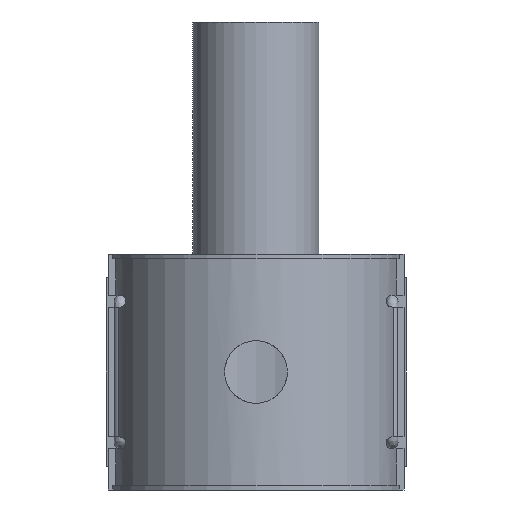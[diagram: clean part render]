
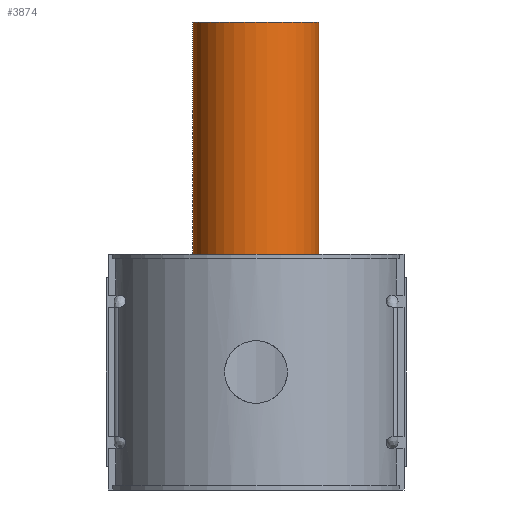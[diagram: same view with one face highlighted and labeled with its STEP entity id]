
A CAD part, front view. The second image highlights one B-rep face of the part: STEP entity #3874.
In plain terms, the highlighted cylindrical face has radius 31.5 mm (diameter 63 mm), a full revolution.
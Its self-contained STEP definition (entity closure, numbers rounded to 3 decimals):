
#336=CIRCLE('',#4235,31.5);
#337=CIRCLE('',#4236,31.5);
#338=CIRCLE('',#4237,31.5);
#339=CIRCLE('',#4238,31.5);
#579=FACE_OUTER_BOUND('',#822,.T.);
#822=EDGE_LOOP('',(#3588,#3589,#3590,#3591,#3592,#3593));
#1143=LINE('',#8208,#1460);
#1460=VECTOR('',#5237,31.5);
#1911=VERTEX_POINT('',#8203);
#1912=VERTEX_POINT('',#8204);
#1913=VERTEX_POINT('',#8207);
#1914=VERTEX_POINT('',#8209);
#2472=EDGE_CURVE('',#1911,#1912,#336,.T.);
#2473=EDGE_CURVE('',#1912,#1911,#337,.T.);
#2474=EDGE_CURVE('',#1912,#1913,#1143,.T.);
#2475=EDGE_CURVE('',#1913,#1914,#338,.T.);
#2476=EDGE_CURVE('',#1914,#1913,#339,.T.);
#3588=ORIENTED_EDGE('',*,*,#2472,.F.);
#3589=ORIENTED_EDGE('',*,*,#2473,.F.);
#3590=ORIENTED_EDGE('',*,*,#2474,.T.);
#3591=ORIENTED_EDGE('',*,*,#2475,.T.);
#3592=ORIENTED_EDGE('',*,*,#2476,.T.);
#3593=ORIENTED_EDGE('',*,*,#2474,.F.);
#3658=CYLINDRICAL_SURFACE('',#4234,31.5);
#3874=ADVANCED_FACE('',(#579),#3658,.T.);
#4234=AXIS2_PLACEMENT_3D('',#8202,#5231,#5232);
#4235=AXIS2_PLACEMENT_3D('',#8205,#5233,#5234);
#4236=AXIS2_PLACEMENT_3D('',#8206,#5235,#5236);
#4237=AXIS2_PLACEMENT_3D('',#8210,#5238,#5239);
#4238=AXIS2_PLACEMENT_3D('',#8211,#5240,#5241);
#5231=DIRECTION('center_axis',(0.,0.,1.));
#5232=DIRECTION('ref_axis',(0.,-1.,0.));
#5233=DIRECTION('center_axis',(0.,0.,1.));
#5234=DIRECTION('ref_axis',(1.,0.,0.));
#5235=DIRECTION('center_axis',(0.,0.,1.));
#5236=DIRECTION('ref_axis',(1.,0.,0.));
#5237=DIRECTION('',(0.,0.,-1.));
#5238=DIRECTION('center_axis',(0.,0.,1.));
#5239=DIRECTION('ref_axis',(1.,0.,0.));
#5240=DIRECTION('center_axis',(0.,0.,1.));
#5241=DIRECTION('ref_axis',(1.,0.,0.));
#8202=CARTESIAN_POINT('Origin',(0.,119.,87.5));
#8203=CARTESIAN_POINT('',(0.,87.5,175.));
#8204=CARTESIAN_POINT('',(0.,150.5,175.));
#8205=CARTESIAN_POINT('Origin',(0.,119.,175.));
#8206=CARTESIAN_POINT('Origin',(0.,119.,175.));
#8207=CARTESIAN_POINT('',(0.,150.5,0.));
#8208=CARTESIAN_POINT('',(0.,150.5,87.5));
#8209=CARTESIAN_POINT('',(0.,87.5,0.));
#8210=CARTESIAN_POINT('Origin',(0.,119.,0.));
#8211=CARTESIAN_POINT('Origin',(0.,119.,0.));
